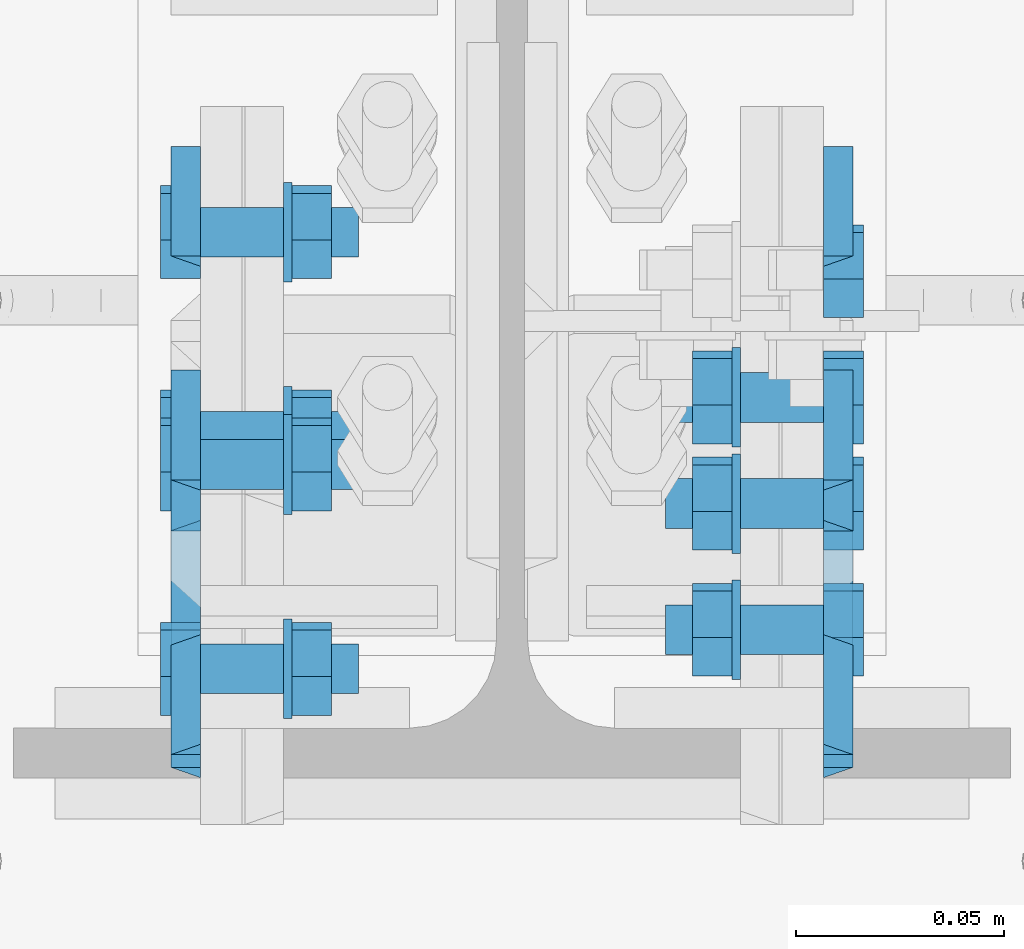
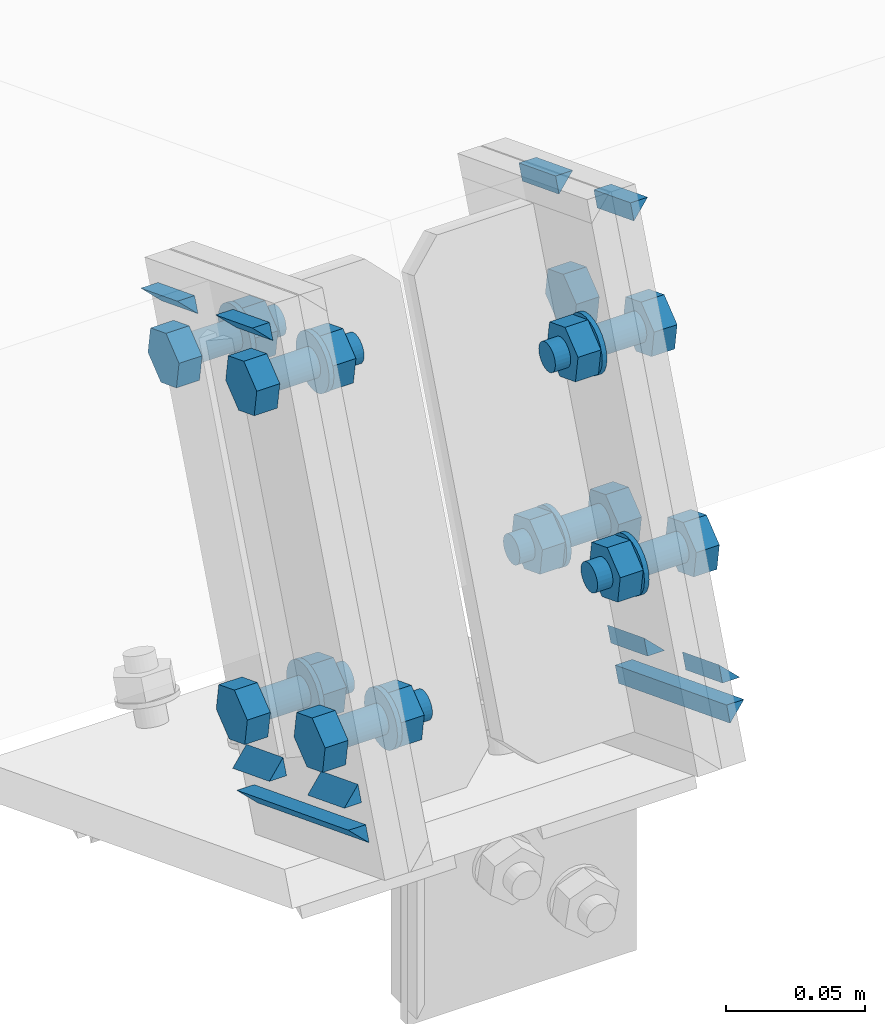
# One storey, part 55 of 72: 29 mechanical fasteners, 18 fasteners.
"""IFC4 building model written with IfcOpenShell, lengths in metres."""

from ifc_helpers import new_model, si_unit, frame, origin_with_axes, place, context, project, spatial, polyline, outline, extrude, type_object, element, save


model = new_model("IFC4")

# Units and contexts
model_context = context("Model", 3, precision=1e-05, world=origin_with_axes())
ifc_project = project(units=[si_unit("LENGTHUNIT", "METRE"), si_unit("AREAUNIT", "SQUARE_METRE"), si_unit("VOLUMEUNIT", "CUBIC_METRE"), si_unit("MASSUNIT", "GRAM", prefix="KILO"), si_unit("TIMEUNIT", "SECOND"), si_unit("PLANEANGLEUNIT", "RADIAN"), si_unit("SOLIDANGLEUNIT", "STERADIAN"), si_unit("THERMODYNAMICTEMPERATUREUNIT", "DEGREE_CELSIUS")], contexts=[model_context])

# Site, building, storey
placement_1 = place(None, origin_with_axes())
site = spatial("IfcSite", under=ifc_project, at=placement_1, Name="Italia", CompositionType="ELEMENT")
building = spatial("IfcBuilding", under=site, at=placement_1, Name="Uffici", CompositionType="ELEMENT")
storey = spatial("IfcBuildingStorey", under=building, at=placement_1, Name="Storey 0", CompositionType="ELEMENT", Elevation=0.0)

# Fasteners
fastener_type_1 = type_object("IfcFastenerType", Name="Collegamento 0204_0203", PredefinedType="WELD")
placement_2 = place(placement_1, origin_with_axes())
fastener_1_placement = place(placement_2, origin_with_axes())
element("IfcFastener", 1, at=fastener_1_placement, inside=storey, type_object=fastener_type_1, Name="Collegamento 0204_0203", context=model_context, shape_type="SweptSolid", body=[
    extrude(outline(polyline([(0.0, 0.0), (-0.00717354, 0.00695801), (0.0, 0.00695801), (0.0, 0.0)])), frame((9.38005, -0.0346503, 7.03152), z_axis=(0.0, -0.93238765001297, 0.361459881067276), x_axis=(1.0, 0.0, 0.0)), (0.0, 0.0, 1.0), 0.0861001),
])
fastener_type_2 = type_object("IfcFastenerType", Name="Collegamento 0204_0203", PredefinedType="WELD")
fastener_2_placement = place(placement_2, origin_with_axes())
element("IfcFastener", 2, at=fastener_2_placement, inside=storey, type_object=fastener_type_2, Name="Collegamento 0204_0203", context=model_context, shape_type="SweptSolid", body=[
    extrude(outline(polyline([(0.0, 0.0), (0.00717354, -0.00695848), (0.0, -0.00695848), (0.0, 0.0)])), frame((9.38005, -0.106862, 7.08345), z_axis=(0.0, 0.932385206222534, -0.361466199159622), x_axis=(-1.0, 0.0, 0.0)), (0.0, 0.0, 1.0), 0.0283003),
])
fastener_type_3 = type_object("IfcFastenerType", Name="Collegamento 0204_0203", PredefinedType="WELD")
fastener_3_placement = place(placement_2, origin_with_axes())
element("IfcFastener", 3, at=fastener_3_placement, inside=storey, type_object=fastener_type_3, Name="Collegamento 0204_0203", context=model_context, shape_type="SweptSolid", body=[
    extrude(outline(polyline([(0.0, 0.0), (-0.00717354, 0.00695848), (0.0, 0.00695848), (0.0, 0.0)])), frame((9.38005, -0.0193225, 7.23096), z_axis=(0.0, -0.932388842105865, 0.361456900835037), x_axis=(1.0, 0.0, 0.0)), (0.0, 0.0, 1.0), 0.0282997),
])
fastener_type_4 = type_object("IfcFastenerType", Name="Collegamento 0204_0203", PredefinedType="WELD")
fastener_4_placement = place(placement_2, origin_with_axes())
element("IfcFastener", 4, at=fastener_4_placement, inside=storey, type_object=fastener_type_4, Name="Collegamento 0204_0203", context=model_context, shape_type="SweptSolid", body=[
    extrude(outline(polyline([(0.0, 0.0), (-0.00717354, 0.00695801), (0.0, 0.00695801), (0.0, 0.0)])), frame((9.38005, 0.0345697, 7.21007), z_axis=(0.0, -0.932385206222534, 0.361466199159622), x_axis=(1.0, 0.0, 0.0)), (0.0, 0.0, 1.0), 0.0283003),
])
fastener_type_5 = type_object("IfcFastenerType", Name="Collegamento 0204_0203", PredefinedType="WELD")
fastener_5_placement = place(placement_2, origin_with_axes())
element("IfcFastener", 5, at=fastener_5_placement, inside=storey, type_object=fastener_type_5, Name="Collegamento 0204_0203", context=model_context, shape_type="SweptSolid", body=[
    extrude(outline(polyline([(0.0, 0.0), (0.00717354, -0.00695753), (0.0, -0.00695753), (0.0, 0.0)])), frame((9.38005, -0.0529705, 7.06256), z_axis=(0.0, 0.932390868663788, -0.36145156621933), x_axis=(-1.0, 0.0, 0.0)), (0.0, 0.0, 1.0), 0.0283001),
])
fastener_type_6 = type_object("IfcFastenerType", Name="Collegamento 0204_0203", PredefinedType="WELD")
fastener_6_placement = place(placement_2, origin_with_axes())
element("IfcFastener", 6, at=fastener_6_placement, inside=storey, type_object=fastener_type_6, Name="Collegamento 0204_0203", context=model_context, shape_type="SweptSolid", body=[
    extrude(outline(polyline([(0.0, 0.0), (-0.00717354, 0.00695801), (0.0, 0.00695801), (0.0, 0.0)])), frame((9.38005, -0.0346503, 7.03152), z_axis=(0.0, -0.93238765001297, 0.361459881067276), x_axis=(1.0, 0.0, 0.0)), (0.0, 0.0, 1.0), 0.0861001),
])
fastener_type_7 = type_object("IfcFastenerType", Name="Collegamento 0204_0203", PredefinedType="WELD")
fastener_7_placement = place(placement_2, origin_with_axes())
element("IfcFastener", 7, at=fastener_7_placement, inside=storey, type_object=fastener_type_7, Name="Collegamento 0204_0203", context=model_context, shape_type="SweptSolid", body=[
    extrude(outline(polyline([(0.0, 0.0), (0.00717354, -0.00695848), (0.0, -0.00695848), (0.0, 0.0)])), frame((9.38005, -0.106862, 7.08345), z_axis=(0.0, 0.932385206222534, -0.361466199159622), x_axis=(-1.0, 0.0, 0.0)), (0.0, 0.0, 1.0), 0.0283003),
])
fastener_type_8 = type_object("IfcFastenerType", Name="Collegamento 0204_0203", PredefinedType="WELD")
fastener_8_placement = place(placement_2, origin_with_axes())
element("IfcFastener", 8, at=fastener_8_placement, inside=storey, type_object=fastener_type_8, Name="Collegamento 0204_0203", context=model_context, shape_type="SweptSolid", body=[
    extrude(outline(polyline([(0.0, 0.0), (-0.00717354, 0.00695848), (0.0, 0.00695848), (0.0, 0.0)])), frame((9.38005, -0.0193225, 7.23096), z_axis=(0.0, -0.932388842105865, 0.361456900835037), x_axis=(1.0, 0.0, 0.0)), (0.0, 0.0, 1.0), 0.0282997),
])

# Mechanical fasteners
mechanical_fastener_type_1 = type_object("IfcMechanicalFastenerType", Name="Collegamento 0204_0203", PredefinedType="BOLT")
mechanical_fastener_1_placement = place(placement_2, origin_with_axes())
element("IfcMechanicalFastener", 9, at=mechanical_fastener_1_placement, inside=storey, type_object=mechanical_fastener_type_1, Name="Collegamento 0204_0203", NominalDiameter=0.0119999, context=model_context, shape_type="SweptSolid", body=[
    extrude(outline(polyline([(0.0, 0.0), (-0.0111886, -0.00433731), (-0.0205394, 0.00318336), (-0.0187015, 0.0150418), (-0.00751284, 0.0193791), (0.0018379, 0.0118585), (0.0, 0.0)])), frame((9.38, -0.0421047, 7.06499), z_axis=(-1.0, 0.0, 0.0), x_axis=(0.0, -1.0, 0.0)), (0.0, 0.0, 1.0), 0.00959969),
])
mechanical_fastener_type_2 = type_object("IfcMechanicalFastenerType", Name="Collegamento 0204_0203", PredefinedType="BOLT")
mechanical_fastener_2_placement = place(placement_2, origin_with_axes())
element("IfcMechanicalFastener", 10, at=mechanical_fastener_2_placement, inside=storey, type_object=mechanical_fastener_type_2, Name="Collegamento 0204_0203", NominalDiameter=0.012, context=model_context, shape_type="SweptSolid", body=[
    extrude(outline(polyline([(0.0, 0.0), (-0.000204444, -0.00155306), (-0.000803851, -0.00299978), (-0.00175736, -0.00424242), (-0.003, -0.00519609), (-0.00444709, -0.00579548), (-0.006, -0.00600004), (-0.00755292, -0.00579548), (-0.009, -0.00519609), (-0.0102426, -0.00424242), (-0.0111962, -0.00299978), (-0.0117956, -0.00155306), (-0.012, 0.0), (-0.0117956, 0.00155306), (-0.0111962, 0.00299978), (-0.0102426, 0.00424242), (-0.009, 0.00519609), (-0.00755291, 0.00579548), (-0.006, 0.00600004), (-0.00444709, 0.00579548), (-0.003, 0.00519609), (-0.00175736, 0.00424242), (-0.000803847, 0.00299978), (-0.000204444, 0.00155306), (0.0, 0.0)])), frame((9.418, -0.038754, 7.07251), z_axis=(-1.0, 0.0, 0.0), x_axis=(0.0, -1.0, 0.0)), (0.0, 0.0, 1.0), 0.0380001),
])
mechanical_fastener_type_3 = type_object("IfcMechanicalFastenerType", Name="Collegamento 0204_0203", PredefinedType="BOLT")
mechanical_fastener_3_placement = place(placement_2, origin_with_axes())
element("IfcMechanicalFastener", 11, at=mechanical_fastener_3_placement, inside=storey, type_object=mechanical_fastener_type_3, Name="Collegamento 0204_0203", NominalDiameter=0.0119999, context=model_context, shape_type="SweptSolid", body=[
    extrude(outline(polyline([(0.0, 0.0), (-0.0111886, -0.00433731), (-0.0205394, 0.00318336), (-0.0187015, 0.0150418), (-0.00751284, 0.0193791), (0.0018379, 0.0118585), (0.0, 0.0)])), frame((9.4116, -0.0421047, 7.06499), z_axis=(-1.0, 0.0, 0.0), x_axis=(0.0, -1.0, 0.0)), (0.0, 0.0, 1.0), 0.00959969),
])
mechanical_fastener_type_4 = type_object("IfcMechanicalFastenerType", Name="Collegamento 0204_0203", PredefinedType="BOLT")
mechanical_fastener_4_placement = place(placement_2, origin_with_axes())
element("IfcMechanicalFastener", 12, at=mechanical_fastener_4_placement, inside=storey, type_object=mechanical_fastener_type_4, Name="Collegamento 0204_0203", NominalDiameter=0.024, context=model_context, shape_type="SweptSolid", body=[
    extrude(outline(polyline([(0.0, 0.0), (-0.000408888, -0.00310564), (-0.00160769, -0.00600004), (-0.00351472, -0.00848532), (-0.006, -0.0103922), (-0.00889417, -0.011591), (-0.012, -0.0120001), (-0.0151058, -0.011591), (-0.018, -0.0103922), (-0.0204853, -0.00848532), (-0.0223923, -0.00600004), (-0.0235911, -0.00310564), (-0.024, 0.0), (-0.0235911, 0.00310564), (-0.0223923, 0.00600004), (-0.0204853, 0.00848532), (-0.018, 0.0103922), (-0.0151058, 0.011591), (-0.012, 0.0120001), (-0.00889417, 0.011591), (-0.006, 0.0103922), (-0.00351471, 0.00848532), (-0.00160769, 0.00600004), (-0.000408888, 0.00310564), (0.0, 0.0)])), frame((9.402, -0.044754, 7.07251), z_axis=(-1.0, 0.0, 0.0), x_axis=(0.0, -1.0, 0.0)), (0.0, 0.0, 1.0), 0.00199986),
])
mechanical_fastener_type_5 = type_object("IfcMechanicalFastenerType", Name="Collegamento 0204_0203", PredefinedType="BOLT")
mechanical_fastener_5_placement = place(placement_2, origin_with_axes())
element("IfcMechanicalFastener", 13, at=mechanical_fastener_5_placement, inside=storey, type_object=mechanical_fastener_type_5, Name="Collegamento 0204_0203", NominalDiameter=0.0119999, context=model_context, shape_type="SweptSolid", body=[
    extrude(outline(polyline([(0.0, 0.0), (-0.0111886, -0.00433731), (-0.0205394, 0.00318336), (-0.0187015, 0.0150418), (-0.00751285, 0.0193796), (0.0018379, 0.0118585), (0.0, 0.0)])), frame((9.38, -0.0980479, 7.08668), z_axis=(-1.0, 0.0, 0.0), x_axis=(0.0, -1.0, 0.0)), (0.0, 0.0, 1.0), 0.00959969),
])
mechanical_fastener_type_6 = type_object("IfcMechanicalFastenerType", Name="Collegamento 0204_0203", PredefinedType="BOLT")
mechanical_fastener_6_placement = place(placement_2, origin_with_axes())
element("IfcMechanicalFastener", 14, at=mechanical_fastener_6_placement, inside=storey, type_object=mechanical_fastener_type_6, Name="Collegamento 0204_0203", NominalDiameter=0.012, context=model_context, shape_type="SweptSolid", body=[
    extrude(outline(polyline([(0.0, 0.0), (-0.000204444, -0.00155306), (-0.000803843, -0.00299978), (-0.00175735, -0.00424242), (-0.003, -0.00519609), (-0.00444708, -0.00579548), (-0.006, -0.00600004), (-0.00755291, -0.00579548), (-0.009, -0.00519609), (-0.0102426, -0.00424242), (-0.0111962, -0.00299978), (-0.0117956, -0.00155306), (-0.012, 0.0), (-0.0117956, 0.00155306), (-0.0111962, 0.00299978), (-0.0102426, 0.00424242), (-0.009, 0.00519609), (-0.00755291, 0.00579548), (-0.006, 0.00600004), (-0.00444708, 0.00579548), (-0.003, 0.00519609), (-0.00175735, 0.00424242), (-0.000803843, 0.00299978), (-0.000204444, 0.00155306), (0.0, 0.0)])), frame((9.418, -0.0946972, 7.0942), z_axis=(-1.0, 0.0, 0.0), x_axis=(0.0, -1.0, 0.0)), (0.0, 0.0, 1.0), 0.0380001),
])
mechanical_fastener_type_7 = type_object("IfcMechanicalFastenerType", Name="Collegamento 0204_0203", PredefinedType="BOLT")
mechanical_fastener_7_placement = place(placement_2, origin_with_axes())
element("IfcMechanicalFastener", 15, at=mechanical_fastener_7_placement, inside=storey, type_object=mechanical_fastener_type_7, Name="Collegamento 0204_0203", NominalDiameter=0.0119999, context=model_context, shape_type="SweptSolid", body=[
    extrude(outline(polyline([(0.0, 0.0), (-0.0111886, -0.00433731), (-0.0205394, 0.00318336), (-0.0187015, 0.0150418), (-0.00751285, 0.0193796), (0.0018379, 0.0118585), (0.0, 0.0)])), frame((9.4116, -0.0980479, 7.08668), z_axis=(-1.0, 0.0, 0.0), x_axis=(0.0, -1.0, 0.0)), (0.0, 0.0, 1.0), 0.00959969),
])
mechanical_fastener_type_8 = type_object("IfcMechanicalFastenerType", Name="Collegamento 0204_0203", PredefinedType="BOLT")
mechanical_fastener_8_placement = place(placement_2, origin_with_axes())
element("IfcMechanicalFastener", 16, at=mechanical_fastener_8_placement, inside=storey, type_object=mechanical_fastener_type_8, Name="Collegamento 0204_0203", NominalDiameter=0.024, context=model_context, shape_type="SweptSolid", body=[
    extrude(outline(polyline([(0.0, 0.0), (-0.000408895, -0.00310564), (-0.00160769, -0.00600004), (-0.00351472, -0.00848532), (-0.006, -0.0103922), (-0.00889418, -0.011591), (-0.012, -0.0120001), (-0.0151058, -0.011591), (-0.018, -0.0103922), (-0.0204853, -0.00848532), (-0.0223923, -0.00600004), (-0.0235911, -0.00310564), (-0.024, 0.0), (-0.0235911, 0.00310564), (-0.0223923, 0.00600004), (-0.0204853, 0.00848532), (-0.018, 0.0103922), (-0.0151058, 0.011591), (-0.012, 0.0120001), (-0.00889418, 0.011591), (-0.006, 0.0103922), (-0.00351471, 0.00848532), (-0.00160769, 0.00600004), (-0.000408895, 0.00310564), (0.0, 0.0)])), frame((9.402, -0.100697, 7.0942), z_axis=(-1.0, 0.0, 0.0), x_axis=(0.0, -1.0, 0.0)), (0.0, 0.0, 1.0), 0.00199986),
])
mechanical_fastener_type_9 = type_object("IfcMechanicalFastenerType", Name="Collegamento 0204_0203", PredefinedType="BOLT")
mechanical_fastener_9_placement = place(placement_2, origin_with_axes())
element("IfcMechanicalFastener", 17, at=mechanical_fastener_9_placement, inside=storey, type_object=mechanical_fastener_type_9, Name="Collegamento 0204_0203", NominalDiameter=0.0119999, context=model_context, shape_type="SweptSolid", body=[
    extrude(outline(polyline([(0.0, 0.0), (-0.0111886, -0.00433779), (-0.0205394, 0.00318336), (-0.0187015, 0.0150418), (-0.00751284, 0.0193791), (0.00183791, 0.0118585), (0.0, 0.0)])), frame((9.38, 0.00705409, 7.1918), z_axis=(-1.0, 0.0, 0.0), x_axis=(0.0, -1.0, 0.0)), (0.0, 0.0, 1.0), 0.00959969),
])
mechanical_fastener_type_10 = type_object("IfcMechanicalFastenerType", Name="Collegamento 0204_0203", PredefinedType="BOLT")
mechanical_fastener_10_placement = place(placement_2, origin_with_axes())
element("IfcMechanicalFastener", 18, at=mechanical_fastener_10_placement, inside=storey, type_object=mechanical_fastener_type_10, Name="Collegamento 0204_0203", NominalDiameter=0.012, context=model_context, shape_type="SweptSolid", body=[
    extrude(outline(polyline([(0.0, 0.0), (-0.000204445, -0.00155306), (-0.000803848, -0.00299978), (-0.00175736, -0.00424242), (-0.003, -0.00519609), (-0.00444709, -0.00579548), (-0.006, -0.00600004), (-0.00755292, -0.00579548), (-0.009, -0.00519609), (-0.0102426, -0.00424242), (-0.0111962, -0.00299978), (-0.0117956, -0.00155306), (-0.012, 0.0), (-0.0117956, 0.00155306), (-0.0111962, 0.00299978), (-0.0102426, 0.00424242), (-0.009, 0.00519609), (-0.00755291, 0.00579548), (-0.006, 0.00600004), (-0.00444709, 0.00579548), (-0.003, 0.00519609), (-0.00175736, 0.00424242), (-0.000803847, 0.00299978), (-0.000204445, 0.00155306), (0.0, 0.0)])), frame((9.418, 0.0104048, 7.19932), z_axis=(-1.0, 0.0, 0.0), x_axis=(0.0, -1.0, 0.0)), (0.0, 0.0, 1.0), 0.0380001),
])
mechanical_fastener_type_11 = type_object("IfcMechanicalFastenerType", Name="Collegamento 0204_0203", PredefinedType="BOLT")
mechanical_fastener_11_placement = place(placement_2, origin_with_axes())
element("IfcMechanicalFastener", 19, at=mechanical_fastener_11_placement, inside=storey, type_object=mechanical_fastener_type_11, Name="Collegamento 0204_0203", NominalDiameter=0.0119999, context=model_context, shape_type="SweptSolid", body=[
    extrude(outline(polyline([(0.0, 0.0), (-0.0111886, -0.00433779), (-0.0205394, 0.00318336), (-0.0187015, 0.0150418), (-0.00751284, 0.0193791), (0.00183791, 0.0118585), (0.0, 0.0)])), frame((9.4116, 0.00705409, 7.1918), z_axis=(-1.0, 0.0, 0.0), x_axis=(0.0, -1.0, 0.0)), (0.0, 0.0, 1.0), 0.00959969),
])
mechanical_fastener_type_12 = type_object("IfcMechanicalFastenerType", Name="Collegamento 0204_0203", PredefinedType="BOLT")
mechanical_fastener_12_placement = place(placement_2, origin_with_axes())
element("IfcMechanicalFastener", 20, at=mechanical_fastener_12_placement, inside=storey, type_object=mechanical_fastener_type_12, Name="Collegamento 0204_0203", NominalDiameter=0.024, context=model_context, shape_type="SweptSolid", body=[
    extrude(outline(polyline([(0.0, 0.0), (-0.00040889, -0.00310564), (-0.0016077, -0.00600004), (-0.00351472, -0.00848532), (-0.006, -0.0103922), (-0.00889417, -0.011591), (-0.012, -0.0120001), (-0.0151058, -0.011591), (-0.018, -0.0103922), (-0.0204853, -0.00848532), (-0.0223923, -0.00600004), (-0.0235911, -0.00310564), (-0.024, 0.0), (-0.0235911, 0.00310564), (-0.0223923, 0.00600004), (-0.0204853, 0.00848532), (-0.018, 0.0103922), (-0.0151058, 0.011591), (-0.012, 0.0120001), (-0.00889417, 0.011591), (-0.006, 0.0103922), (-0.00351472, 0.00848532), (-0.00160769, 0.00600004), (-0.00040889, 0.00310564), (0.0, 0.0)])), frame((9.402, 0.00440483, 7.19932), z_axis=(-1.0, 0.0, 0.0), x_axis=(0.0, -1.0, 0.0)), (0.0, 0.0, 1.0), 0.00199986),
])
mechanical_fastener_type_13 = type_object("IfcMechanicalFastenerType", Name="Collegamento 0204_0203", PredefinedType="BOLT")
mechanical_fastener_13_placement = place(placement_2, origin_with_axes())
element("IfcMechanicalFastener", 21, at=mechanical_fastener_13_placement, inside=storey, type_object=mechanical_fastener_type_13, Name="Collegamento 0204_0203", NominalDiameter=0.0119999, context=model_context, shape_type="SweptSolid", body=[
    extrude(outline(polyline([(0.0, 0.0), (-0.0111886, -0.00433731), (-0.0205394, 0.00318336), (-0.0187015, 0.0150418), (-0.00751285, 0.0193791), (0.0018379, 0.0118585), (0.0, 0.0)])), frame((9.38, -0.0488891, 7.21349), z_axis=(-1.0, 0.0, 0.0), x_axis=(0.0, -1.0, 0.0)), (0.0, 0.0, 1.0), 0.00959969),
])
mechanical_fastener_type_14 = type_object("IfcMechanicalFastenerType", Name="Collegamento 0204_0203", PredefinedType="BOLT")
mechanical_fastener_14_placement = place(placement_2, origin_with_axes())
element("IfcMechanicalFastener", 22, at=mechanical_fastener_14_placement, inside=storey, type_object=mechanical_fastener_type_14, Name="Collegamento 0204_0203", NominalDiameter=0.012, context=model_context, shape_type="SweptSolid", body=[
    extrude(outline(polyline([(0.0, 0.0), (-0.000204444, -0.00155306), (-0.000803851, -0.00299978), (-0.00175736, -0.00424242), (-0.003, -0.00519609), (-0.00444709, -0.00579548), (-0.006, -0.00600004), (-0.00755291, -0.00579548), (-0.009, -0.00519609), (-0.0102426, -0.00424242), (-0.0111962, -0.00299978), (-0.0117956, -0.00155306), (-0.012, 0.0), (-0.0117956, 0.00155306), (-0.0111962, 0.00299978), (-0.0102426, 0.00424242), (-0.009, 0.00519609), (-0.00755291, 0.00579548), (-0.006, 0.00600004), (-0.00444709, 0.00579548), (-0.003, 0.00519609), (-0.00175736, 0.00424242), (-0.000803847, 0.00299978), (-0.000204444, 0.00155306), (0.0, 0.0)])), frame((9.418, -0.0455384, 7.22101), z_axis=(-1.0, 0.0, 0.0), x_axis=(0.0, -1.0, 0.0)), (0.0, 0.0, 1.0), 0.0380001),
])
mechanical_fastener_type_15 = type_object("IfcMechanicalFastenerType", Name="Collegamento 0204_0203", PredefinedType="BOLT")
mechanical_fastener_15_placement = place(placement_2, origin_with_axes())
element("IfcMechanicalFastener", 23, at=mechanical_fastener_15_placement, inside=storey, type_object=mechanical_fastener_type_15, Name="Collegamento 0204_0203", NominalDiameter=0.0119999, context=model_context, shape_type="SweptSolid", body=[
    extrude(outline(polyline([(0.0, 0.0), (-0.0111886, -0.00433731), (-0.0205394, 0.00318336), (-0.0187015, 0.0150418), (-0.00751285, 0.0193791), (0.0018379, 0.0118585), (0.0, 0.0)])), frame((9.4116, -0.0488891, 7.21349), z_axis=(-1.0, 0.0, 0.0), x_axis=(0.0, -1.0, 0.0)), (0.0, 0.0, 1.0), 0.00959969),
])
mechanical_fastener_type_16 = type_object("IfcMechanicalFastenerType", Name="Collegamento 0204_0203", PredefinedType="BOLT")
mechanical_fastener_16_placement = place(placement_2, origin_with_axes())
element("IfcMechanicalFastener", 24, at=mechanical_fastener_16_placement, inside=storey, type_object=mechanical_fastener_type_16, Name="Collegamento 0204_0203", NominalDiameter=0.024, context=model_context, shape_type="SweptSolid", body=[
    extrude(outline(polyline([(0.0, 0.0), (-0.000408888, -0.00310564), (-0.00160769, -0.00600004), (-0.00351472, -0.00848532), (-0.006, -0.0103922), (-0.00889417, -0.011591), (-0.012, -0.0120001), (-0.0151058, -0.011591), (-0.018, -0.0103922), (-0.0204853, -0.00848532), (-0.0223923, -0.00600004), (-0.0235911, -0.00310564), (-0.024, 0.0), (-0.0235911, 0.00310564), (-0.0223923, 0.00600004), (-0.0204853, 0.00848532), (-0.018, 0.0103922), (-0.0151058, 0.011591), (-0.012, 0.0120001), (-0.00889417, 0.011591), (-0.006, 0.0103922), (-0.00351471, 0.00848532), (-0.00160769, 0.00600004), (-0.000408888, 0.00310564), (0.0, 0.0)])), frame((9.402, -0.0515384, 7.22101), z_axis=(-1.0, 0.0, 0.0), x_axis=(0.0, -1.0, 0.0)), (0.0, 0.0, 1.0), 0.00199986),
])

# Fasteners
fastener_type_9 = type_object("IfcFastenerType", Name="Collegamento 0204_0205", PredefinedType="WELD")
fastener_9_placement = place(placement_2, origin_with_axes())
element("IfcFastener", 25, at=fastener_9_placement, inside=storey, type_object=fastener_type_9, Name="Collegamento 0204_0205", context=model_context, shape_type="SweptSolid", body=[
    extrude(outline(polyline([(0.0, 0.0), (-0.00717354, 0.00695848), (0.0, 0.00695848), (0.0, 0.0)])), frame((9.52995, 0.00818294, 7.2203), z_axis=(0.0, 0.932385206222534, -0.361466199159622), x_axis=(-1.0, 0.0, 0.0)), (0.0, 0.0, 1.0), 0.0283003),
])
fastener_type_10 = type_object("IfcFastenerType", Name="Collegamento 0204_0205", PredefinedType="WELD")
fastener_10_placement = place(placement_2, origin_with_axes())
element("IfcFastener", 26, at=fastener_10_placement, inside=storey, type_object=fastener_type_10, Name="Collegamento 0204_0205", context=model_context, shape_type="SweptSolid", body=[
    extrude(outline(polyline([(0.0, 0.0), (0.00717354, -0.00695801), (0.0, -0.00695801), (0.0, 0.0)])), frame((9.52995, -0.0265838, 7.05233), z_axis=(0.0, -0.932390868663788, 0.36145156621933), x_axis=(1.0, 0.0, 0.0)), (0.0, 0.0, 1.0), 0.0283001),
])
fastener_type_11 = type_object("IfcFastenerType", Name="Collegamento 0204_0205", PredefinedType="WELD")
fastener_11_placement = place(placement_2, origin_with_axes())
element("IfcFastener", 27, at=fastener_11_placement, inside=storey, type_object=fastener_type_11, Name="Collegamento 0204_0205", context=model_context, shape_type="SweptSolid", body=[
    extrude(outline(polyline([(0.0, 0.0), (-0.00717354, 0.00695801), (0.0, 0.00695801), (0.0, 0.0)])), frame((9.52995, -0.114929, 7.06264), z_axis=(0.0, 0.93238765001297, -0.361459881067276), x_axis=(-1.0, 0.0, 0.0)), (0.0, 0.0, 1.0), 0.0861001),
])
fastener_type_12 = type_object("IfcFastenerType", Name="Collegamento 0204_0205", PredefinedType="WELD")
fastener_12_placement = place(placement_2, origin_with_axes())
element("IfcFastener", 28, at=fastener_12_placement, inside=storey, type_object=fastener_type_12, Name="Collegamento 0204_0205", context=model_context, shape_type="SweptSolid", body=[
    extrude(outline(polyline([(0.0, 0.0), (0.00717354, -0.00695753), (0.0, -0.00695753), (0.0, 0.0)])), frame((9.52995, -0.0804757, 7.07322), z_axis=(0.0, -0.932385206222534, 0.361466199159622), x_axis=(1.0, 0.0, 0.0)), (0.0, 0.0, 1.0), 0.0283003),
])
fastener_type_13 = type_object("IfcFastenerType", Name="Collegamento 0204_0205", PredefinedType="WELD")
fastener_13_placement = place(placement_2, origin_with_axes())
element("IfcFastener", 29, at=fastener_13_placement, inside=storey, type_object=fastener_type_13, Name="Collegamento 0204_0205", context=model_context, shape_type="SweptSolid", body=[
    extrude(outline(polyline([(0.0, 0.0), (-0.00717354, 0.00695848), (0.0, 0.00695848), (0.0, 0.0)])), frame((9.52995, -0.0457087, 7.24119), z_axis=(0.0, 0.932388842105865, -0.361456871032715), x_axis=(-1.0, 0.0, 0.0)), (0.0, 0.0, 1.0), 0.0282997),
])
fastener_type_14 = type_object("IfcFastenerType", Name="Collegamento 0204_0205", PredefinedType="WELD")
fastener_14_placement = place(placement_2, origin_with_axes())
element("IfcFastener", 30, at=fastener_14_placement, inside=storey, type_object=fastener_type_14, Name="Collegamento 0204_0205", context=model_context, shape_type="SweptSolid", body=[
    extrude(outline(polyline([(0.0, 0.0), (-0.00717354, 0.00695848), (0.0, 0.00695848), (0.0, 0.0)])), frame((9.52995, 0.00818294, 7.2203), z_axis=(0.0, 0.932385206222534, -0.361466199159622), x_axis=(-1.0, 0.0, 0.0)), (0.0, 0.0, 1.0), 0.0283003),
])
fastener_type_15 = type_object("IfcFastenerType", Name="Collegamento 0204_0205", PredefinedType="WELD")
fastener_15_placement = place(placement_2, origin_with_axes())
element("IfcFastener", 31, at=fastener_15_placement, inside=storey, type_object=fastener_type_15, Name="Collegamento 0204_0205", context=model_context, shape_type="SweptSolid", body=[
    extrude(outline(polyline([(0.0, 0.0), (0.00717354, -0.00695801), (0.0, -0.00695801), (0.0, 0.0)])), frame((9.52995, -0.0265838, 7.05233), z_axis=(0.0, -0.932390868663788, 0.36145156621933), x_axis=(1.0, 0.0, 0.0)), (0.0, 0.0, 1.0), 0.0283001),
])
fastener_type_16 = type_object("IfcFastenerType", Name="Collegamento 0204_0205", PredefinedType="WELD")
fastener_16_placement = place(placement_2, origin_with_axes())
element("IfcFastener", 32, at=fastener_16_placement, inside=storey, type_object=fastener_type_16, Name="Collegamento 0204_0205", context=model_context, shape_type="SweptSolid", body=[
    extrude(outline(polyline([(0.0, 0.0), (-0.00717354, 0.00695801), (0.0, 0.00695801), (0.0, 0.0)])), frame((9.52995, -0.114929, 7.06264), z_axis=(0.0, 0.93238765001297, -0.361459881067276), x_axis=(-1.0, 0.0, 0.0)), (0.0, 0.0, 1.0), 0.0861001),
])
fastener_type_17 = type_object("IfcFastenerType", Name="Collegamento 0204_0205", PredefinedType="WELD")
fastener_17_placement = place(placement_2, origin_with_axes())
element("IfcFastener", 33, at=fastener_17_placement, inside=storey, type_object=fastener_type_17, Name="Collegamento 0204_0205", context=model_context, shape_type="SweptSolid", body=[
    extrude(outline(polyline([(0.0, 0.0), (0.00717354, -0.00695753), (0.0, -0.00695753), (0.0, 0.0)])), frame((9.52995, -0.0804757, 7.07322), z_axis=(0.0, -0.932385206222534, 0.361466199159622), x_axis=(1.0, 0.0, 0.0)), (0.0, 0.0, 1.0), 0.0283003),
])
fastener_type_18 = type_object("IfcFastenerType", Name="Collegamento 0204_0205", PredefinedType="WELD")
fastener_18_placement = place(placement_2, origin_with_axes())
element("IfcFastener", 34, at=fastener_18_placement, inside=storey, type_object=fastener_type_18, Name="Collegamento 0204_0205", context=model_context, shape_type="SweptSolid", body=[
    extrude(outline(polyline([(0.0, 0.0), (-0.00717354, 0.00695848), (0.0, 0.00695848), (0.0, 0.0)])), frame((9.52995, -0.0457087, 7.24119), z_axis=(0.0, 0.932388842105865, -0.361456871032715), x_axis=(-1.0, 0.0, 0.0)), (0.0, 0.0, 1.0), 0.0282997),
])

# Mechanical fasteners
mechanical_fastener_type_17 = type_object("IfcMechanicalFastenerType", Name="Collegamento 0204_0205", PredefinedType="BOLT")
mechanical_fastener_17_placement = place(placement_2, origin_with_axes())
element("IfcMechanicalFastener", 35, at=mechanical_fastener_17_placement, inside=storey, type_object=mechanical_fastener_type_17, Name="Collegamento 0204_0205", NominalDiameter=0.0119999, context=model_context, shape_type="SweptSolid", body=[
    extrude(outline(polyline([(0.0, 0.0), (-0.0111886, 0.00433779), (-0.0130266, 0.0161963), (-0.0036758, 0.0237169), (0.00751284, 0.0193796), (0.00935075, 0.00752115), (0.0, 0.0)])), frame((9.53, -0.0774613, 7.10659), z_axis=(1.0, 0.0, 0.0), x_axis=(0.0, 1.0, 0.0)), (0.0, 0.0, 1.0), 0.00959969),
])
mechanical_fastener_type_18 = type_object("IfcMechanicalFastenerType", Name="Collegamento 0204_0205", PredefinedType="BOLT")
mechanical_fastener_18_placement = place(placement_2, origin_with_axes())
element("IfcMechanicalFastener", 36, at=mechanical_fastener_18_placement, inside=storey, type_object=mechanical_fastener_type_18, Name="Collegamento 0204_0205", NominalDiameter=0.012, context=model_context, shape_type="SweptSolid", body=[
    extrude(outline(polyline([(0.0, 0.0), (-0.000204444, -0.00155306), (-0.000803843, -0.00299978), (-0.00175735, -0.00424242), (-0.003, -0.00519609), (-0.00444708, -0.00579548), (-0.006, -0.00600004), (-0.00755291, -0.00579548), (-0.009, -0.00519609), (-0.0102426, -0.00424242), (-0.0111962, -0.00299978), (-0.0117956, -0.00155306), (-0.012, 0.0), (-0.0117956, 0.00155306), (-0.0111962, 0.00299978), (-0.0102426, 0.00424242), (-0.009, 0.00519609), (-0.00755291, 0.00579548), (-0.006, 0.00600004), (-0.00444708, 0.00579548), (-0.003, 0.00519609), (-0.00175735, 0.00424242), (-0.000803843, 0.00299978), (-0.000204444, 0.00155306), (0.0, 0.0)])), frame((9.492, -0.0732992, 7.11844), z_axis=(1.0, 0.0, 0.0), x_axis=(0.0, 1.0, 0.0)), (0.0, 0.0, 1.0), 0.0380001),
])
mechanical_fastener_type_19 = type_object("IfcMechanicalFastenerType", Name="Collegamento 0204_0205", PredefinedType="BOLT")
mechanical_fastener_19_placement = place(placement_2, origin_with_axes())
element("IfcMechanicalFastener", 37, at=mechanical_fastener_19_placement, inside=storey, type_object=mechanical_fastener_type_19, Name="Collegamento 0204_0205", NominalDiameter=0.0119999, context=model_context, shape_type="SweptSolid", body=[
    extrude(outline(polyline([(0.0, 0.0), (-0.0111886, 0.00433779), (-0.0130266, 0.0161963), (-0.0036758, 0.0237169), (0.00751284, 0.0193796), (0.00935075, 0.00752115), (0.0, 0.0)])), frame((9.4984, -0.0774613, 7.10659), z_axis=(1.0, 0.0, 0.0), x_axis=(0.0, 1.0, 0.0)), (0.0, 0.0, 1.0), 0.00959969),
])
mechanical_fastener_type_20 = type_object("IfcMechanicalFastenerType", Name="Collegamento 0204_0205", PredefinedType="BOLT")
mechanical_fastener_20_placement = place(placement_2, origin_with_axes())
element("IfcMechanicalFastener", 38, at=mechanical_fastener_20_placement, inside=storey, type_object=mechanical_fastener_type_20, Name="Collegamento 0204_0205", NominalDiameter=0.024, context=model_context, shape_type="SweptSolid", body=[
    extrude(outline(polyline([(0.0, 0.0), (-0.000408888, -0.00310564), (-0.0016077, -0.00600004), (-0.00351472, -0.00848532), (-0.006, -0.0103922), (-0.00889418, -0.011591), (-0.012, -0.0120001), (-0.0151058, -0.011591), (-0.018, -0.0103922), (-0.0204853, -0.00848532), (-0.0223923, -0.00600004), (-0.0235911, -0.00310564), (-0.024, 0.0), (-0.0235911, 0.00310564), (-0.0223923, 0.00600004), (-0.0204853, 0.00848532), (-0.018, 0.0103922), (-0.0151058, 0.011591), (-0.012, 0.0120001), (-0.00889418, 0.011591), (-0.006, 0.0103922), (-0.00351471, 0.00848532), (-0.00160769, 0.00600004), (-0.000408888, 0.00310564), (0.0, 0.0)])), frame((9.508, -0.0672992, 7.11844), z_axis=(1.0, 0.0, 0.0), x_axis=(0.0, 1.0, 0.0)), (0.0, 0.0, 1.0), 0.00199986),
])
mechanical_fastener_type_21 = type_object("IfcMechanicalFastenerType", Name="Collegamento 0204_0205", PredefinedType="BOLT")
mechanical_fastener_21_placement = place(placement_2, origin_with_axes())
element("IfcMechanicalFastener", 39, at=mechanical_fastener_21_placement, inside=storey, type_object=mechanical_fastener_type_21, Name="Collegamento 0204_0205", NominalDiameter=0.0119999, context=model_context, shape_type="SweptSolid", body=[
    extrude(outline(polyline([(0.0, 0.0), (-0.0111886, 0.00433731), (-0.0130265, 0.0161958), (-0.00367581, 0.0237169), (0.00751284, 0.0193791), (0.00935074, 0.00752068), (0.0, 0.0)])), frame((9.53, -0.021518, 7.0849), z_axis=(1.0, 0.0, 0.0), x_axis=(0.0, 1.0, 0.0)), (0.0, 0.0, 1.0), 0.00959969),
])
mechanical_fastener_type_22 = type_object("IfcMechanicalFastenerType", Name="Collegamento 0204_0205", PredefinedType="BOLT")
mechanical_fastener_22_placement = place(placement_2, origin_with_axes())
element("IfcMechanicalFastener", 40, at=mechanical_fastener_22_placement, inside=storey, type_object=mechanical_fastener_type_22, Name="Collegamento 0204_0205", NominalDiameter=0.012, context=model_context, shape_type="SweptSolid", body=[
    extrude(outline(polyline([(0.0, 0.0), (-0.000204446, -0.00155306), (-0.000803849, -0.00299978), (-0.00175736, -0.00424242), (-0.003, -0.00519609), (-0.00444709, -0.00579548), (-0.006, -0.00600004), (-0.00755292, -0.00579548), (-0.009, -0.00519609), (-0.0102426, -0.00424242), (-0.0111962, -0.00299978), (-0.0117956, -0.00155306), (-0.012, 0.0), (-0.0117956, 0.00155306), (-0.0111962, 0.00299978), (-0.0102426, 0.00424242), (-0.009, 0.00519609), (-0.00755291, 0.00579548), (-0.006, 0.00600004), (-0.00444709, 0.00579548), (-0.003, 0.00519609), (-0.00175736, 0.00424242), (-0.000803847, 0.00299978), (-0.000204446, 0.00155306), (0.0, 0.0)])), frame((9.492, -0.0173559, 7.09676), z_axis=(1.0, 0.0, 0.0), x_axis=(0.0, 1.0, 0.0)), (0.0, 0.0, 1.0), 0.0380001),
])
mechanical_fastener_type_23 = type_object("IfcMechanicalFastenerType", Name="Collegamento 0204_0205", PredefinedType="BOLT")
mechanical_fastener_23_placement = place(placement_2, origin_with_axes())
element("IfcMechanicalFastener", 41, at=mechanical_fastener_23_placement, inside=storey, type_object=mechanical_fastener_type_23, Name="Collegamento 0204_0205", NominalDiameter=0.0119999, context=model_context, shape_type="SweptSolid", body=[
    extrude(outline(polyline([(0.0, 0.0), (-0.0111886, 0.00433731), (-0.0130265, 0.0161958), (-0.00367581, 0.0237169), (0.00751284, 0.0193791), (0.00935074, 0.00752068), (0.0, 0.0)])), frame((9.4984, -0.021518, 7.0849), z_axis=(1.0, 0.0, 0.0), x_axis=(0.0, 1.0, 0.0)), (0.0, 0.0, 1.0), 0.00959969),
])
mechanical_fastener_type_24 = type_object("IfcMechanicalFastenerType", Name="Collegamento 0204_0205", PredefinedType="BOLT")
mechanical_fastener_24_placement = place(placement_2, origin_with_axes())
element("IfcMechanicalFastener", 42, at=mechanical_fastener_24_placement, inside=storey, type_object=mechanical_fastener_type_24, Name="Collegamento 0204_0205", NominalDiameter=0.024, context=model_context, shape_type="SweptSolid", body=[
    extrude(outline(polyline([(0.0, 0.0), (-0.00040889, -0.00310564), (-0.0016077, -0.00600004), (-0.00351472, -0.00848532), (-0.006, -0.0103922), (-0.00889417, -0.011591), (-0.012, -0.0120001), (-0.0151058, -0.011591), (-0.018, -0.0103922), (-0.0204853, -0.00848532), (-0.0223923, -0.00600004), (-0.0235911, -0.00310564), (-0.024, 0.0), (-0.0235911, 0.00310564), (-0.0223923, 0.00600004), (-0.0204853, 0.00848532), (-0.018, 0.0103922), (-0.0151058, 0.011591), (-0.012, 0.0120001), (-0.00889417, 0.011591), (-0.006, 0.0103922), (-0.00351472, 0.00848532), (-0.00160769, 0.00600004), (-0.00040889, 0.00310564), (0.0, 0.0)])), frame((9.508, -0.0113559, 7.09676), z_axis=(1.0, 0.0, 0.0), x_axis=(0.0, 1.0, 0.0)), (0.0, 0.0, 1.0), 0.00199986),
])
mechanical_fastener_type_25 = type_object("IfcMechanicalFastenerType", Name="Collegamento 0204_0205", PredefinedType="BOLT")
mechanical_fastener_25_placement = place(placement_2, origin_with_axes())
element("IfcMechanicalFastener", 43, at=mechanical_fastener_25_placement, inside=storey, type_object=mechanical_fastener_type_25, Name="Collegamento 0204_0205", NominalDiameter=0.0119999, context=model_context, shape_type="SweptSolid", body=[
    extrude(outline(polyline([(0.0, 0.0), (-0.0111886, 0.00433779), (-0.0130265, 0.0161963), (-0.0036758, 0.0237169), (0.00751284, 0.0193796), (0.00935074, 0.00752115), (0.0, 0.0)])), frame((9.53, -0.0470985, 7.18491), z_axis=(1.0, 0.0, 0.0), x_axis=(0.0, 1.0, 0.0)), (0.0, 0.0, 1.0), 0.00959969),
])
mechanical_fastener_type_26 = type_object("IfcMechanicalFastenerType", Name="Collegamento 0204_0205", PredefinedType="BOLT")
mechanical_fastener_26_placement = place(placement_2, origin_with_axes())
element("IfcMechanicalFastener", 44, at=mechanical_fastener_26_placement, inside=storey, type_object=mechanical_fastener_type_26, Name="Collegamento 0204_0205", NominalDiameter=0.012, context=model_context, shape_type="SweptSolid", body=[
    extrude(outline(polyline([(0.0, 0.0), (-0.000204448, -0.00155306), (-0.000803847, -0.00299978), (-0.00175736, -0.00424242), (-0.003, -0.00519609), (-0.00444709, -0.00579548), (-0.006, -0.00600004), (-0.00755291, -0.00579548), (-0.009, -0.00519609), (-0.0102426, -0.00424242), (-0.0111962, -0.00299978), (-0.0117956, -0.00155306), (-0.012, 0.0), (-0.0117956, 0.00155306), (-0.0111962, 0.00299978), (-0.0102426, 0.00424242), (-0.009, 0.00519609), (-0.00755291, 0.00579548), (-0.006, 0.00600004), (-0.00444709, 0.00579548), (-0.003, 0.00519609), (-0.00175736, 0.00424242), (-0.000803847, 0.00299978), (-0.000204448, 0.00155306), (0.0, 0.0)])), frame((9.492, -0.0429364, 7.19676), z_axis=(1.0, 0.0, 0.0), x_axis=(0.0, 1.0, 0.0)), (0.0, 0.0, 1.0), 0.0380001),
])
mechanical_fastener_type_27 = type_object("IfcMechanicalFastenerType", Name="Collegamento 0204_0205", PredefinedType="BOLT")
mechanical_fastener_27_placement = place(placement_2, origin_with_axes())
element("IfcMechanicalFastener", 45, at=mechanical_fastener_27_placement, inside=storey, type_object=mechanical_fastener_type_27, Name="Collegamento 0204_0205", NominalDiameter=0.0119999, context=model_context, shape_type="SweptSolid", body=[
    extrude(outline(polyline([(0.0, 0.0), (-0.0111886, 0.00433779), (-0.0130265, 0.0161963), (-0.0036758, 0.0237169), (0.00751284, 0.0193796), (0.00935074, 0.00752115), (0.0, 0.0)])), frame((9.4984, -0.0470985, 7.18491), z_axis=(1.0, 0.0, 0.0), x_axis=(0.0, 1.0, 0.0)), (0.0, 0.0, 1.0), 0.00959969),
])
mechanical_fastener_type_28 = type_object("IfcMechanicalFastenerType", Name="Collegamento 0204_0205", PredefinedType="BOLT")
mechanical_fastener_28_placement = place(placement_2, origin_with_axes())
element("IfcMechanicalFastener", 46, at=mechanical_fastener_28_placement, inside=storey, type_object=mechanical_fastener_type_28, Name="Collegamento 0204_0205", NominalDiameter=0.024, context=model_context, shape_type="SweptSolid", body=[
    extrude(outline(polyline([(0.0, 0.0), (-0.000408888, -0.00310564), (-0.00160769, -0.00600004), (-0.00351472, -0.00848532), (-0.006, -0.0103922), (-0.00889417, -0.011591), (-0.012, -0.0120001), (-0.0151058, -0.011591), (-0.018, -0.0103922), (-0.0204853, -0.00848532), (-0.0223923, -0.00600004), (-0.0235911, -0.00310564), (-0.024, 0.0), (-0.0235911, 0.00310564), (-0.0223923, 0.00600004), (-0.0204853, 0.00848532), (-0.018, 0.0103922), (-0.0151058, 0.011591), (-0.012, 0.0120001), (-0.00889417, 0.011591), (-0.006, 0.0103922), (-0.00351471, 0.00848532), (-0.00160769, 0.00600004), (-0.000408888, 0.00310564), (0.0, 0.0)])), frame((9.508, -0.0369364, 7.19676), z_axis=(1.0, 0.0, 0.0), x_axis=(0.0, 1.0, 0.0)), (0.0, 0.0, 1.0), 0.00199986),
])
mechanical_fastener_type_29 = type_object("IfcMechanicalFastenerType", Name="Collegamento 0204_0205", PredefinedType="BOLT")
mechanical_fastener_29_placement = place(placement_2, origin_with_axes())
element("IfcMechanicalFastener", 47, at=mechanical_fastener_29_placement, inside=storey, type_object=mechanical_fastener_type_29, Name="Collegamento 0204_0205", NominalDiameter=0.0119999, context=model_context, shape_type="SweptSolid", body=[
    extrude(outline(polyline([(0.0, 0.0), (-0.0111886, 0.00433731), (-0.0130265, 0.0161958), (-0.0036758, 0.0237169), (0.00751284, 0.0193791), (0.00935074, 0.00752068), (0.0, 0.0)])), frame((9.53, 0.00884473, 7.16322), z_axis=(1.0, 0.0, 0.0), x_axis=(0.0, 1.0, 0.0)), (0.0, 0.0, 1.0), 0.00959969),
])

save(model, "model.ifc")
